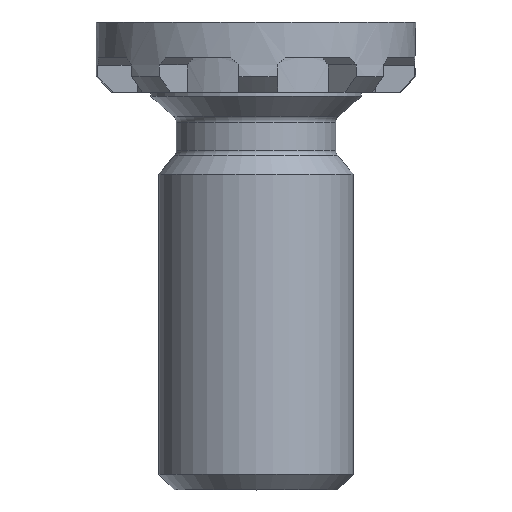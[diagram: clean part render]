
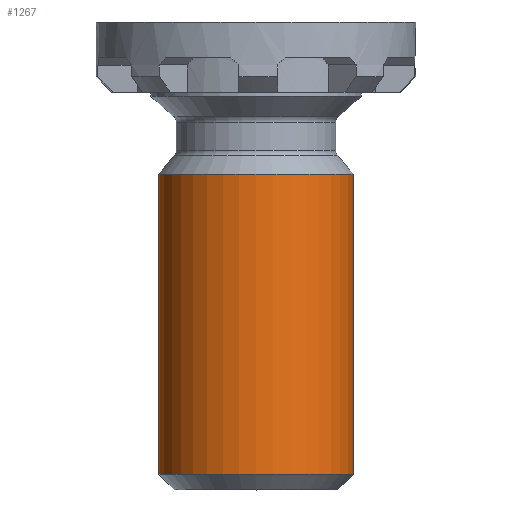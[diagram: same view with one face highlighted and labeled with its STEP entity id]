
A CAD part, top view. The second image highlights one B-rep face of the part: STEP entity #1267.
In plain terms, the highlighted cylindrical face has radius 1.25 mm (diameter 2.5 mm), a full revolution.
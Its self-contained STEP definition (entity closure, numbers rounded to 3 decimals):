
#38=CYLINDRICAL_SURFACE('',#1435,1.25);
#100=CIRCLE('',#1432,1.25);
#101=CIRCLE('',#1433,1.25);
#102=CIRCLE('',#1436,1.25);
#174=FACE_OUTER_BOUND('',#242,.T.);
#242=EDGE_LOOP('',(#1094,#1095,#1096,#1097,#1098));
#334=LINE('',#2248,#421);
#421=VECTOR('',#1815,1.25);
#573=VERTEX_POINT('',#2240);
#574=VERTEX_POINT('',#2242);
#575=VERTEX_POINT('',#2247);
#759=EDGE_CURVE('',#573,#574,#100,.T.);
#760=EDGE_CURVE('',#574,#573,#101,.T.);
#761=EDGE_CURVE('',#574,#575,#334,.T.);
#762=EDGE_CURVE('',#575,#575,#102,.T.);
#1094=ORIENTED_EDGE('',*,*,#759,.F.);
#1095=ORIENTED_EDGE('',*,*,#760,.F.);
#1096=ORIENTED_EDGE('',*,*,#761,.T.);
#1097=ORIENTED_EDGE('',*,*,#762,.T.);
#1098=ORIENTED_EDGE('',*,*,#761,.F.);
#1267=ADVANCED_FACE('',(#174),#38,.T.);
#1432=AXIS2_PLACEMENT_3D('',#2243,#1807,#1808);
#1433=AXIS2_PLACEMENT_3D('',#2244,#1809,#1810);
#1435=AXIS2_PLACEMENT_3D('',#2246,#1813,#1814);
#1436=AXIS2_PLACEMENT_3D('',#2249,#1816,#1817);
#1807=DIRECTION('center_axis',(0.,-1.,0.));
#1808=DIRECTION('ref_axis',(-1.,0.,0.));
#1809=DIRECTION('center_axis',(0.,-1.,0.));
#1810=DIRECTION('ref_axis',(-1.,0.,0.));
#1813=DIRECTION('center_axis',(0.,-1.,0.));
#1814=DIRECTION('ref_axis',(1.,0.,0.));
#1815=DIRECTION('',(0.,1.,0.));
#1816=DIRECTION('center_axis',(0.,-1.,0.));
#1817=DIRECTION('ref_axis',(1.,0.,0.));
#2240=CARTESIAN_POINT('',(1.25,0.2,0.));
#2242=CARTESIAN_POINT('',(-1.25,0.2,0.));
#2243=CARTESIAN_POINT('Origin',(0.,0.2,0.));
#2244=CARTESIAN_POINT('Origin',(0.,0.2,0.));
#2246=CARTESIAN_POINT('Origin',(0.,2.025,0.));
#2247=CARTESIAN_POINT('',(-1.25,4.05,0.));
#2248=CARTESIAN_POINT('',(-1.25,2.025,0.));
#2249=CARTESIAN_POINT('Origin',(0.,4.05,0.));
